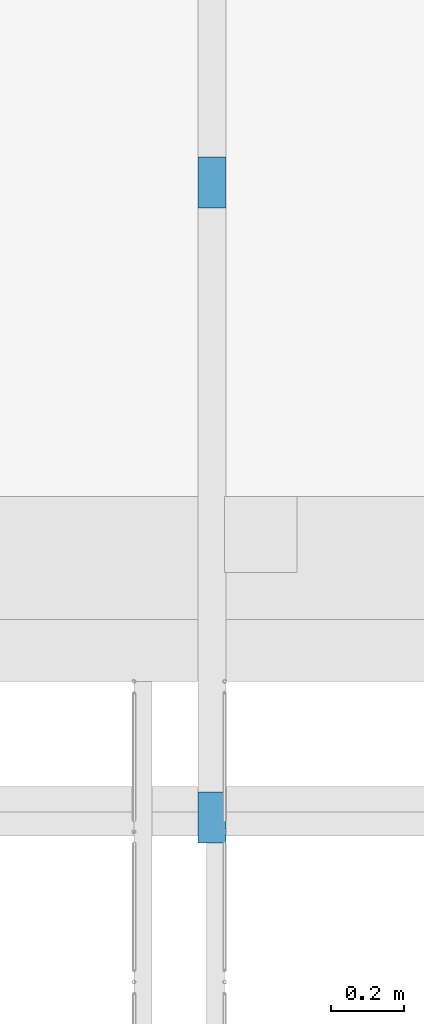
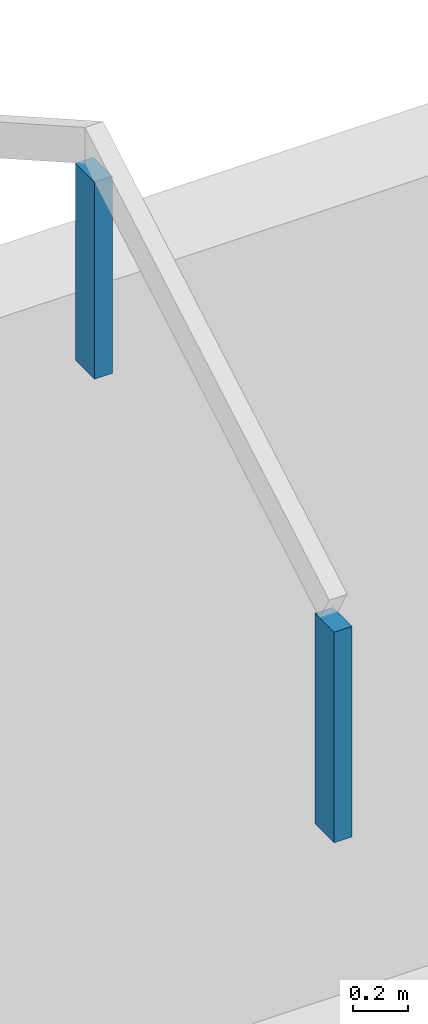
# One storey, part 93 of 153: 2 members, 1 element without a shape of its own.
"""IFC4 building model written with IfcOpenShell, lengths in metres."""

from ifc_helpers import new_model, entity, si_unit, converted_unit, derived_unit, direction, frame, origin, place, context, subcontext, project, spatial, indexed_curve, outline, extrude, source, transform, mapped, material, type_object, type_shapes, element, aggregate, save


model = new_model("IFC4")

# Units and contexts
model_context = context("Model", 3, precision=1e-05, world=origin(), true_north=direction((6.123031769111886e-17, 1.0)))
body_context = subcontext(model_context, "Body", "Model", "MODEL_VIEW")
ifc_project = project(units=[si_unit("LENGTHUNIT", "METRE"), si_unit("AREAUNIT", "SQUARE_METRE"), si_unit("VOLUMEUNIT", "CUBIC_METRE"), converted_unit("PLANEANGLEUNIT", "DEGREE", entity("IfcRatioMeasure", 0.017453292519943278), si_unit("PLANEANGLEUNIT", "RADIAN"), dimensions=[0, 0, 0, 0, 0, 0, 0]), si_unit("MASSUNIT", "GRAM", prefix="KILO"), derived_unit("MASSDENSITYUNIT", [(si_unit("MASSUNIT", "GRAM", prefix="KILO"), 1), (si_unit("LENGTHUNIT", "METRE"), -3)]), derived_unit("MOMENTOFINERTIAUNIT", [(si_unit("LENGTHUNIT", "METRE"), 4)]), si_unit("TIMEUNIT", "SECOND"), si_unit("FREQUENCYUNIT", "HERTZ"), si_unit("THERMODYNAMICTEMPERATUREUNIT", "DEGREE_CELSIUS"), derived_unit("THERMALTRANSMITTANCEUNIT", [(si_unit("MASSUNIT", "GRAM", prefix="KILO"), 1), (si_unit("THERMODYNAMICTEMPERATUREUNIT", "KELVIN"), -1), (si_unit("TIMEUNIT", "SECOND"), -3)]), derived_unit("VOLUMETRICFLOWRATEUNIT", [(si_unit("LENGTHUNIT", "METRE"), 3), (si_unit("TIMEUNIT", "SECOND"), -1)]), derived_unit("MASSFLOWRATEUNIT", [(si_unit("MASSUNIT", "GRAM", prefix="KILO"), 1), (si_unit("TIMEUNIT", "SECOND"), -1)]), derived_unit("ROTATIONALFREQUENCYUNIT", [(si_unit("TIMEUNIT", "SECOND"), -1)]), si_unit("ELECTRICCURRENTUNIT", "AMPERE"), si_unit("ELECTRICVOLTAGEUNIT", "VOLT"), si_unit("POWERUNIT", "WATT"), si_unit("FORCEUNIT", "NEWTON", prefix="KILO"), si_unit("ILLUMINANCEUNIT", "LUX"), si_unit("LUMINOUSFLUXUNIT", "LUMEN"), si_unit("LUMINOUSINTENSITYUNIT", "CANDELA"), derived_unit("USERDEFINED", [(si_unit("MASSUNIT", "GRAM", prefix="KILO"), -1), (si_unit("LENGTHUNIT", "METRE"), -2), (si_unit("TIMEUNIT", "SECOND"), 3), (si_unit("LUMINOUSFLUXUNIT", "LUMEN"), 1)]), derived_unit("SOUNDPOWERUNIT", [(si_unit("MASSUNIT", "GRAM", prefix="KILO"), 1), (si_unit("LENGTHUNIT", "METRE"), 2), (si_unit("TIMEUNIT", "SECOND"), -3)]), derived_unit("SOUNDPRESSUREUNIT", [(si_unit("MASSUNIT", "GRAM", prefix="KILO"), 1), (si_unit("LENGTHUNIT", "METRE"), -1), (si_unit("TIMEUNIT", "SECOND"), -2)]), derived_unit("LINEARVELOCITYUNIT", [(si_unit("LENGTHUNIT", "METRE"), 1), (si_unit("TIMEUNIT", "SECOND"), -1)]), si_unit("PRESSUREUNIT", "PASCAL"), derived_unit("USERDEFINED", [(si_unit("LENGTHUNIT", "METRE"), -2), (si_unit("MASSUNIT", "GRAM", prefix="KILO"), 1), (si_unit("TIMEUNIT", "SECOND"), -2)]), derived_unit("LINEARFORCEUNIT", [(si_unit("MASSUNIT", "GRAM", prefix="KILO"), 1), (si_unit("LENGTHUNIT", "METRE"), 1), (si_unit("TIMEUNIT", "SECOND"), -2), (si_unit("LENGTHUNIT", "METRE"), -1)]), derived_unit("PLANARFORCEUNIT", [(si_unit("MASSUNIT", "GRAM", prefix="KILO"), 1), (si_unit("LENGTHUNIT", "METRE"), 1), (si_unit("TIMEUNIT", "SECOND"), -2), (si_unit("LENGTHUNIT", "METRE"), -2)])], contexts=[model_context])

# Site, building, storey
site_placement = place(None, origin())
site = spatial("IfcSite", under=ifc_project, at=site_placement, Name="Superficie", CompositionType="ELEMENT")
building_placement = place(site_placement, origin())
building = spatial("IfcBuilding", under=site, at=building_placement, CompositionType="ELEMENT")
storey_placement = place(building_placement, frame((0.0, 0.0, 3.5999999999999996)))
storey = spatial("IfcBuildingStorey", under=building, at=storey_placement, Name="Nivel 1", CompositionType="ELEMENT", Elevation=3.5999999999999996)

# Assembly, members
assembly_placement = place(storey_placement, origin())
assembly = element("IfcElementAssembly", 1, at=assembly_placement, inside=storey, Name="Cercha superior:Cercha superior", ObjectType="Cercha superior:Cercha superior", AssemblyPlace="NOTDEFINED", PredefinedType="TRUSS")
ifc_material = material(Name="Madera - Madera de construcción", Category="Madera")
member_type_1 = type_object("IfcMemberType", Name="Glulam-Pino del sur:76X140", PredefinedType="BRACE", material=ifc_material)
shared_shape_1 = source(origin(), body_context, "Body", "SweptSolid", [
    extrude(outline(indexed_curve([(-0.06999999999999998, -0.03800000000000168), (0.06999999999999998, -0.03800000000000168), (0.06999999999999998, 0.03800000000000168), (-0.06999999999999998, 0.03800000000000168), (-0.06999999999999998, -0.03800000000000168)], self_intersect=False)), frame((-0.5000000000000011, 0.0, 0.0), z_axis=(1.0, 0.0, 0.0), x_axis=(0.0, 0.0, -1.0)), (0.0, 0.0, 1.0), 0.939000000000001),
])
type_shapes(member_type_1, [shared_shape_1])
member_1_placement = place(building_placement, frame((6.1519262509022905, -3.708672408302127, 20.687397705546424), z_axis=(0.0, -1.0, 0.0), x_axis=(0.0, 0.0, 1.0)))
member_1 = element("IfcMember", 2, at=member_1_placement, type_object=member_type_1, material=ifc_material, Name="Glulam-Pino del sur:76X140", ObjectType="Glulam-Pino del sur:76X140", PredefinedType="BRACE", context=body_context, shape_type="MappedRepresentation", body=[
    mapped(shared_shape_1, transform((0.0, 0.0, 0.0), scale=1.0)),
])
member_type_2 = type_object("IfcMemberType", Name="Glulam-Pino del sur:76X140", PredefinedType="BRACE", material=ifc_material)
shared_shape_2 = source(origin(), body_context, "Body", "SweptSolid", [
    extrude(outline(indexed_curve([(-0.06999999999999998, -0.03800000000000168), (0.06999999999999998, -0.03800000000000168), (0.06999999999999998, 0.03800000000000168), (-0.06999999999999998, 0.03800000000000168), (-0.06999999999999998, -0.03800000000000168)], self_intersect=False)), frame((-0.5000000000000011, 0.0, 0.0), z_axis=(1.0, 0.0, 0.0), x_axis=(0.0, 0.0, -1.0)), (0.0, 0.0, 1.0), 0.8790000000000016),
])
type_shapes(member_type_2, [shared_shape_2])
member_2_placement = place(building_placement, frame((6.151926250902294, -1.958683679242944, 21.69367848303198), z_axis=(0.0, -1.0, 0.0), x_axis=(0.0, 0.0, 1.0)))
member_2 = element("IfcMember", 3, at=member_2_placement, type_object=member_type_2, material=ifc_material, Name="Glulam-Pino del sur:76X140", ObjectType="Glulam-Pino del sur:76X140", PredefinedType="BRACE", context=body_context, shape_type="MappedRepresentation", body=[
    mapped(shared_shape_2, transform((0.0, 0.0, 0.0), scale=1.0)),
])
aggregate(assembly, [member_1, member_2])

save(model, "model.ifc")
